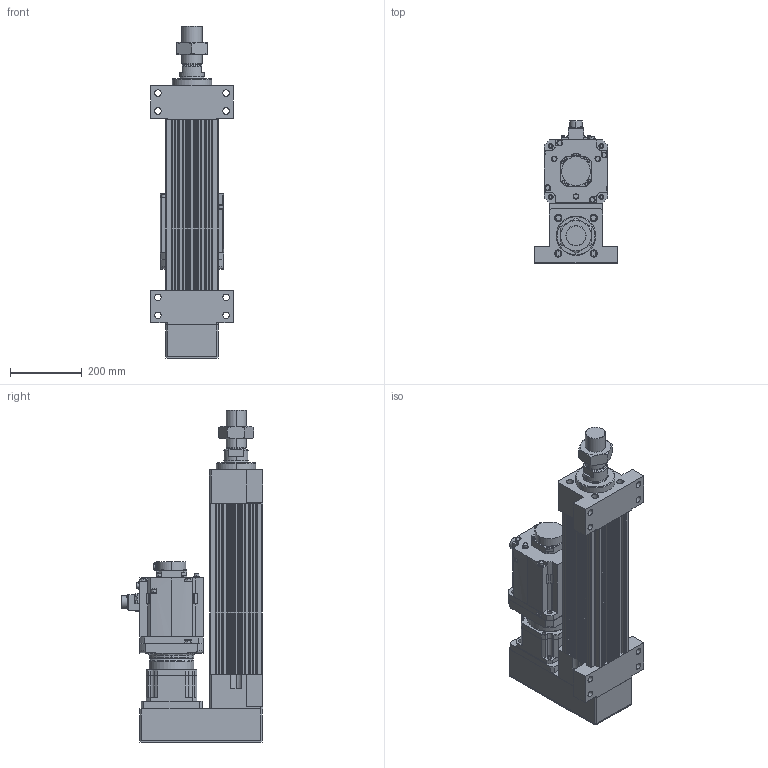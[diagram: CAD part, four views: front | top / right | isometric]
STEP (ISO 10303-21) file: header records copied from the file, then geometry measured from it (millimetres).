
FILE_DESCRIPTION (( 'STEP AP203' ), '1' );
FILE_NAME ('HES150NS(HS)-P200-W050G00-M-FFB.STEP', '2026-06-10T06:36:42', ( 'tms' ), ( '' ), 'SwSTEP 2.0', 'SolidWorks 2013', '' );
FILE_SCHEMA (( 'CONFIG_CONTROL_DESIGN' ));
Length unit declared in the file: millimetre
Products named in the file (9): AB1423; HES150-M-ROD-200; HES150-FFB-200; AB1421; HES150-P-G142; AB1422; HG-SR502B; M56X2.0P; HES150NS(HS)-P200-W050G00-M-FFB
Assembly tree (8 placements, depth 2):
  HES150NS(HS)-P200-W050G00-M-FFB
    HES150-FFB-200
    HES150-M-ROD-200
    M56X2.0P
    HES150-P-G142
    HG-SR502B
    AB1421
    AB1422
    AB1423
Bounding box: 230 x 395.85 x 926 mm (x, y, z)
Volume: 18035528.4 mm3; surface area: 1769234.8 mm2
Topology: 5 solids, 19 shells, 1502 faces, 3922 edges, 2558 vertices
Faces by surface type: cylinder 698, plane 590, cone 132, bspline 76, torus 6
Entity records: 55282 total; most frequent: CARTESIAN_POINT 16792, DIRECTION 8058, ORIENTED_EDGE 7770, EDGE_CURVE 3907, AXIS2_PLACEMENT_3D 3049, VERTEX_POINT 2558, LINE 1960, VECTOR 1960
